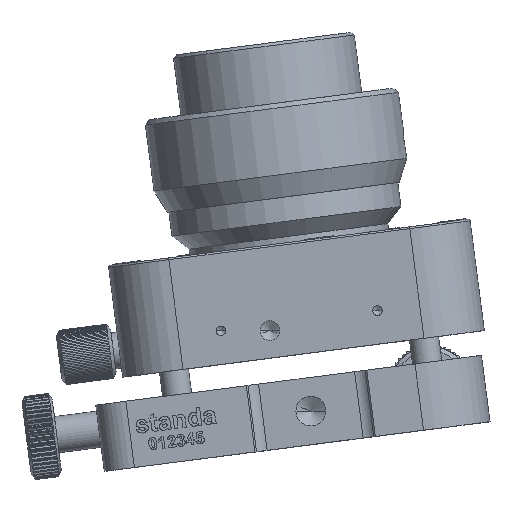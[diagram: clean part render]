
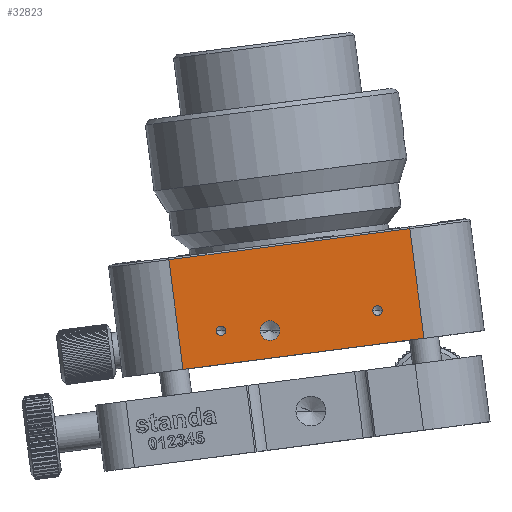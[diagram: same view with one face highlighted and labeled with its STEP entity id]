
A CAD part, left-side view. The second image highlights one B-rep face of the part: STEP entity #32823.
In plain terms, the highlighted planar face has unit normal (-1, 0.001, 0).
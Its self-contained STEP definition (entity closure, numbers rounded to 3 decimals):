
#1177 = CARTESIAN_POINT ( 'NONE',  ( -122.733, 25.707, 37.393 ) ) ;
#1210 = CARTESIAN_POINT ( 'NONE',  ( -122.74, 23.379, 19.343 ) ) ;
#1363 = DIRECTION ( 'NONE',  ( 0., -0.128, -0.992 ) ) ;
#1364 = VECTOR ( 'NONE', #1363, 1000. ) ;
#1365 = CARTESIAN_POINT ( 'NONE',  ( -122.733, 25.707, 37.393 ) ) ;
#1366 = LINE ( 'NONE', #1365, #1364 ) ;
#1413 = CARTESIAN_POINT ( 'NONE',  ( -122.741, 16.356, 25.693 ) ) ;
#1414 = DIRECTION ( 'NONE',  ( 0., -1., 0. ) ) ;
#1415 = DIRECTION ( 'NONE',  ( 1., 0., 0. ) ) ;
#1416 = CARTESIAN_POINT ( 'NONE',  ( -122.741, 17.14, 25.693 ) ) ;
#1417 = AXIS2_PLACEMENT_3D ( 'NONE', #1416, #1415, #1414 ) ;
#1418 = CIRCLE ( 'NONE', #1417, 0.783 ) ;
#1419 = CARTESIAN_POINT ( 'NONE',  ( -122.74, 17.923, 25.693 ) ) ;
#1437 = CARTESIAN_POINT ( 'NONE',  ( -122.749, -13.964, 42.511 ) ) ;
#1461 = CARTESIAN_POINT ( 'NONE',  ( -122.744, 10.699, 25.725 ) ) ;
#1497 = CARTESIAN_POINT ( 'NONE',  ( -122.745, 9.078, 25.725 ) ) ;
#1498 = AXIS2_PLACEMENT_3D ( 'NONE', #1497, #1560, #1559 ) ;
#1499 = CIRCLE ( 'NONE', #1498, 1.621 ) ;
#1558 = CARTESIAN_POINT ( 'NONE',  ( -122.745, 7.457, 25.725 ) ) ;
#1559 = DIRECTION ( 'NONE',  ( 0., -1., 0. ) ) ;
#1560 = DIRECTION ( 'NONE',  ( 1., 0., 0. ) ) ;
#1572 = CARTESIAN_POINT ( 'NONE',  ( -122.752, -9.43, 29.02 ) ) ;
#1573 = DIRECTION ( 'NONE',  ( 0., -1., 0. ) ) ;
#1574 = DIRECTION ( 'NONE',  ( 1., 0., 0. ) ) ;
#1575 = CARTESIAN_POINT ( 'NONE',  ( -122.752, -8.646, 29.02 ) ) ;
#1576 = AXIS2_PLACEMENT_3D ( 'NONE', #1575, #1574, #1573 ) ;
#1577 = CIRCLE ( 'NONE', #1576, 0.783 ) ;
#1578 = CARTESIAN_POINT ( 'NONE',  ( -122.751, -7.863, 29.02 ) ) ;
#1615 = DIRECTION ( 'NONE',  ( 0., 0.992, -0.128 ) ) ;
#1616 = VECTOR ( 'NONE', #1615, 1000. ) ;
#1617 = CARTESIAN_POINT ( 'NONE',  ( -122.749, -13.964, 42.511 ) ) ;
#1618 = LINE ( 'NONE', #1617, #1616 ) ;
#31586 = DIRECTION ( 'NONE',  ( 0., -0.992, 0.128 ) ) ;
#31587 = VECTOR ( 'NONE', #31586, 1000. ) ;
#31588 = CARTESIAN_POINT ( 'NONE',  ( -122.74, 23.379, 19.343 ) ) ;
#31589 = LINE ( 'NONE', #31588, #31587 ) ;
#31624 = DIRECTION ( 'NONE',  ( 0., -1., 0. ) ) ;
#31625 = DIRECTION ( 'NONE',  ( -1., 0., 0. ) ) ;
#31626 = CARTESIAN_POINT ( 'NONE',  ( -122.729, 35.472, 34.924 ) ) ;
#31627 = AXIS2_PLACEMENT_3D ( 'NONE', #31626, #31625, #31624 ) ;
#31628 = PLANE ( 'NONE',  #31627 ) ;
#31629 = FACE_BOUND ( 'NONE', #32872, .T. ) ;
#31630 = FACE_BOUND ( 'NONE', #32881, .T. ) ;
#31631 = FACE_BOUND ( 'NONE', #32804, .T. ) ;
#31637 = FACE_OUTER_BOUND ( 'NONE', #32824, .T. ) ;
#31643 = DIRECTION ( 'NONE',  ( 0., -0.128, -0.992 ) ) ;
#31644 = VECTOR ( 'NONE', #31643, 1000. ) ;
#31645 = CARTESIAN_POINT ( 'NONE',  ( -122.75, -14.117, 41.321 ) ) ;
#31646 = LINE ( 'NONE', #31645, #31644 ) ;
#31684 = DIRECTION ( 'NONE',  ( 0., -1., 0. ) ) ;
#31685 = DIRECTION ( 'NONE',  ( 1., 0., 0. ) ) ;
#31686 = CARTESIAN_POINT ( 'NONE',  ( -122.752, -8.646, 29.02 ) ) ;
#31687 = AXIS2_PLACEMENT_3D ( 'NONE', #31686, #31685, #31684 ) ;
#31688 = CIRCLE ( 'NONE', #31687, 0.783 ) ;
#31699 = CARTESIAN_POINT ( 'NONE',  ( -122.757, -16.293, 24.461 ) ) ;
#31824 = CIRCLE ( 'NONE', #31889, 1.621 ) ;
#31870 = DIRECTION ( 'NONE',  ( 0., -1., 0. ) ) ;
#31871 = DIRECTION ( 'NONE',  ( 1., 0., 0. ) ) ;
#31872 = CARTESIAN_POINT ( 'NONE',  ( -122.741, 17.14, 25.693 ) ) ;
#31873 = AXIS2_PLACEMENT_3D ( 'NONE', #31872, #31871, #31870 ) ;
#31874 = CIRCLE ( 'NONE', #31873, 0.783 ) ;
#31886 = DIRECTION ( 'NONE',  ( 0., -1., 0. ) ) ;
#31887 = DIRECTION ( 'NONE',  ( 1., 0., 0. ) ) ;
#31888 = CARTESIAN_POINT ( 'NONE',  ( -122.745, 9.078, 25.725 ) ) ;
#31889 = AXIS2_PLACEMENT_3D ( 'NONE', #31888, #31887, #31886 ) ;
#32804 = EDGE_LOOP ( 'NONE', ( #32805, #32864 ) ) ;
#32805 = ORIENTED_EDGE ( 'NONE', *, *, #57547, .T. ) ;
#32809 = EDGE_CURVE ( 'NONE', #57256, #32874, #31589, .T. ) ;
#32810 = ORIENTED_EDGE ( 'NONE', *, *, #57349, .T. ) ;
#32811 = ORIENTED_EDGE ( 'NONE', *, *, #32809, .T. ) ;
#32823 = ADVANCED_FACE ( 'NONE', ( #31637, #31631, #31630, #31629 ), #31628, .T. ) ;
#32824 = EDGE_LOOP ( 'NONE', ( #32825, #32873, #32810, #32811 ) ) ;
#32825 = ORIENTED_EDGE ( 'NONE', *, *, #32865, .F. ) ;
#32864 = ORIENTED_EDGE ( 'NONE', *, *, #32885, .T. ) ;
#32865 = EDGE_CURVE ( 'NONE', #57450, #32874, #31646, .T. ) ;
#32866 = ORIENTED_EDGE ( 'NONE', *, *, #57505, .T. ) ;
#32867 = ORIENTED_EDGE ( 'NONE', *, *, #32966, .T. ) ;
#32870 = ORIENTED_EDGE ( 'NONE', *, *, #32974, .T. ) ;
#32871 = ORIENTED_EDGE ( 'NONE', *, *, #57413, .T. ) ;
#32872 = EDGE_LOOP ( 'NONE', ( #32866, #32867 ) ) ;
#32873 = ORIENTED_EDGE ( 'NONE', *, *, #57568, .T. ) ;
#32874 = VERTEX_POINT ( 'NONE', #31699 ) ;
#32881 = EDGE_LOOP ( 'NONE', ( #32871, #32870 ) ) ;
#32885 = EDGE_CURVE ( 'NONE', #57544, #57549, #31688, .T. ) ;
#32966 = EDGE_CURVE ( 'NONE', #57432, #57507, #31824, .T. ) ;
#32974 = EDGE_CURVE ( 'NONE', #57408, #57415, #31874, .T. ) ;
#57222 = VERTEX_POINT ( 'NONE', #1177 ) ;
#57256 = VERTEX_POINT ( 'NONE', #1210 ) ;
#57349 = EDGE_CURVE ( 'NONE', #57222, #57256, #1366, .T. ) ;
#57408 = VERTEX_POINT ( 'NONE', #1419 ) ;
#57413 = EDGE_CURVE ( 'NONE', #57415, #57408, #1418, .T. ) ;
#57415 = VERTEX_POINT ( 'NONE', #1413 ) ;
#57432 = VERTEX_POINT ( 'NONE', #1461 ) ;
#57450 = VERTEX_POINT ( 'NONE', #1437 ) ;
#57505 = EDGE_CURVE ( 'NONE', #57507, #57432, #1499, .T. ) ;
#57507 = VERTEX_POINT ( 'NONE', #1558 ) ;
#57544 = VERTEX_POINT ( 'NONE', #1578 ) ;
#57547 = EDGE_CURVE ( 'NONE', #57549, #57544, #1577, .T. ) ;
#57549 = VERTEX_POINT ( 'NONE', #1572 ) ;
#57568 = EDGE_CURVE ( 'NONE', #57450, #57222, #1618, .T. ) ;
